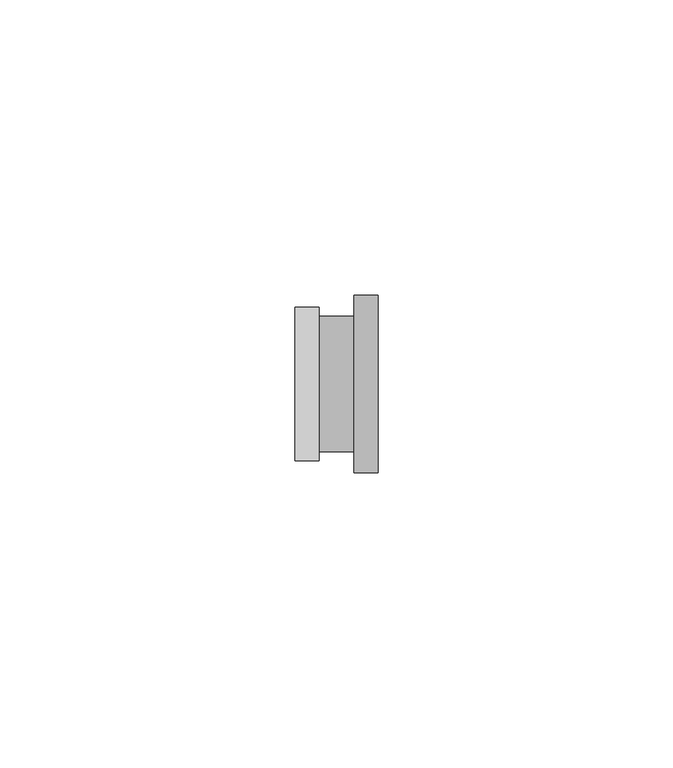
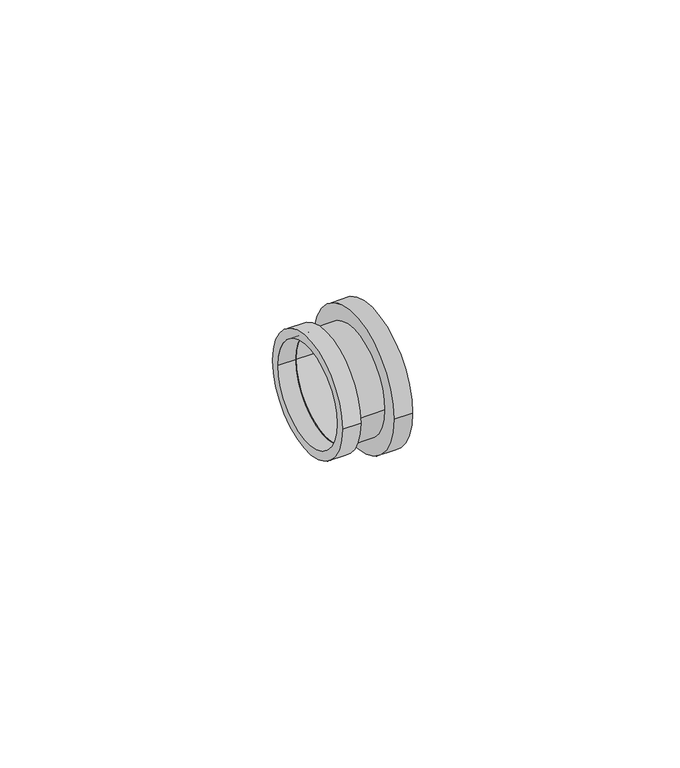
"""IFC4 building model written with IfcOpenShell, lengths in millimetres: pipe fitting geometry, БИР ПЕКС_НПР_Соединитель_Медь : Соединитель медь (пайка) — ПЕКС."""

from ifc_helpers import new_model, si_unit, point, frame, origin, origin_2d, place, context, project, spatial, circle_curve, trimmed, segment, composite_curve, outline, extrude, source, transform, mapped, element, save


def pipe_fitting_b67af057(model_context):
    return source(origin(), model_context, "Body", "SweptSolid", [
        extrude(outline(composite_curve([segment(trimmed(circle_curve(origin_2d(), 11.5), [point((-11.5, 0.0))], [point((11.5, 0.0))], False, "CARTESIAN"), True, "CONTINUOUS"), segment(trimmed(circle_curve(origin_2d(), 11.5), [point((11.5, 0.0))], [point((-11.5, 0.0))], False, "CARTESIAN"), True, "CONTINUOUS")], self_intersect=False), holes=[composite_curve([segment(trimmed(circle_curve(origin_2d(), 11.0), [point((-11.0, 0.0))], [point((11.0, 0.0))], True, "CARTESIAN"), True, "CONTINUOUS"), segment(trimmed(circle_curve(origin_2d(), 11.0), [point((11.0, 0.0))], [point((-11.0, 0.0))], True, "CARTESIAN"), True, "CONTINUOUS")], self_intersect=False)]), frame((-3.0, 0.0, 0.0), z_axis=(1.0, 0.0, 0.0), x_axis=(0.0, 1.0, 0.0)), (0.0, 0.0, 1.0), 6.0),
        extrude(outline(composite_curve([segment(trimmed(circle_curve(origin_2d(), 15.0), [point((-15.0, 0.0))], [point((15.0, 0.0))], False, "CARTESIAN"), True, "CONTINUOUS"), segment(trimmed(circle_curve(origin_2d(), 15.0), [point((15.0, 0.0))], [point((-15.0, 0.0))], False, "CARTESIAN"), True, "CONTINUOUS")], self_intersect=False), holes=[composite_curve([segment(trimmed(circle_curve(origin_2d(), 11.0), [point((-11.0, 0.0))], [point((11.0, 0.0))], True, "CARTESIAN"), True, "CONTINUOUS"), segment(trimmed(circle_curve(origin_2d(), 11.0), [point((11.0, 0.0))], [point((-11.0, 0.0))], True, "CARTESIAN"), True, "CONTINUOUS")], self_intersect=False)]), frame((3.0, 0.0, 0.0), z_axis=(1.0, 0.0, 0.0), x_axis=(0.0, 1.0, 0.0)), (0.0, 0.0, 1.0), 4.0),
        extrude(outline(composite_curve([segment(trimmed(circle_curve(origin_2d(), 13.0), [point((-13.0, 0.0))], [point((13.0, 0.0))], False, "CARTESIAN"), True, "CONTINUOUS"), segment(trimmed(circle_curve(origin_2d(), 13.0), [point((13.0, 0.0))], [point((-13.0, 0.0))], False, "CARTESIAN"), True, "CONTINUOUS")], self_intersect=False), holes=[composite_curve([segment(trimmed(circle_curve(origin_2d(), 11.0), [point((-11.0, 0.0))], [point((11.0, 0.0))], True, "CARTESIAN"), True, "CONTINUOUS"), segment(trimmed(circle_curve(origin_2d(), 11.0), [point((11.0, 0.0))], [point((-11.0, 0.0))], True, "CARTESIAN"), True, "CONTINUOUS")], self_intersect=False)]), frame((-7.0, 0.0, 0.0), z_axis=(1.0, 0.0, 0.0), x_axis=(0.0, 1.0, 0.0)), (0.0, 0.0, 1.0), 4.0),
    ])


if __name__ == "__main__":
    model = new_model("IFC4")
    model_context = context("Model", 3, world=origin())
    ifc_project = project(units=[si_unit("LENGTHUNIT", "METRE", prefix="MILLI")], contexts=[model_context])
    site = spatial("IfcSite", under=ifc_project)
    building = spatial("IfcBuilding", under=site)
    placement = place(None, origin())
    pipe_fitting_shape = pipe_fitting_b67af057(model_context)
    element("IfcPipeFitting", 1, ObjectType="БИР ПЕКС_НПР_Соединитель_Медь : Соединитель медь (пайка) — ПЕКС", at=placement, inside=building, context=model_context, shape_type="MappedRepresentation", body=[
        mapped(pipe_fitting_shape, transform((0.0, 0.0, 0.0), x_axis=(1.0, 0.0, 0.0), y_axis=(0.0, 1.0, 0.0), z_axis=(0.0, 0.0, 1.0))),
    ])
    save(model, "model.ifc")
